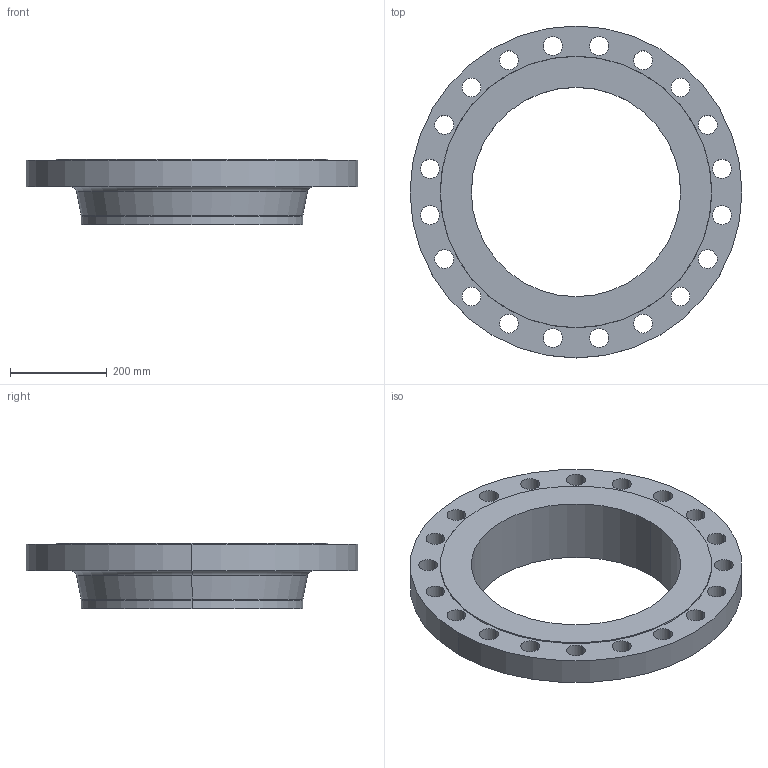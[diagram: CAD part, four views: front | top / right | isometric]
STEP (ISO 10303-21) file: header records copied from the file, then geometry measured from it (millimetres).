
FILE_DESCRIPTION (( 'STEP AP214' ), '1' );
FILE_NAME ('PN40 DN450 Type 11 - Type B Face.STEP', '2018-12-29T04:56:32', ( '' ), ( '' ), 'SwSTEP 2.0', 'SolidWorks 2019', '' );
FILE_SCHEMA (( 'AUTOMOTIVE_DESIGN' ));
Length unit declared in the file: millimetre
Products named in the file (1): PN40 DN450 Type 11 - Type B Face
Bounding box: 685 x 685 x 135 mm (x, y, z)
Volume: 12986628.3 mm3; surface area: 929300.1 mm2
Topology: 1 solids, 1 shells, 58 faces, 156 edges, 102 vertices
Faces by surface type: cylinder 46, cone 4, torus 4, plane 4
Entity records: 1996 total; most frequent: DIRECTION 380, CARTESIAN_POINT 317, ORIENTED_EDGE 312, AXIS2_PLACEMENT_3D 165, EDGE_CURVE 156, CIRCLE 106, VERTEX_POINT 102, EDGE_LOOP 102
